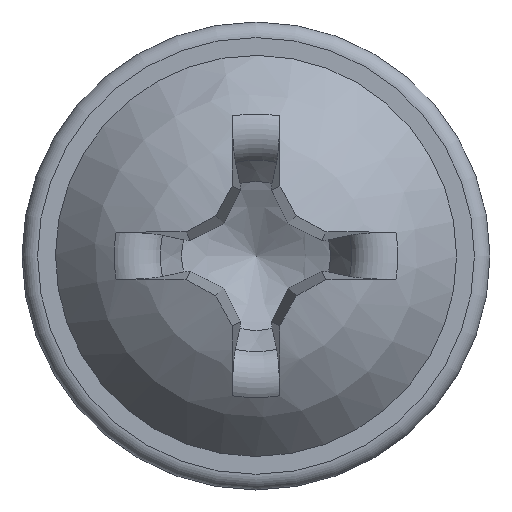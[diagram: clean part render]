
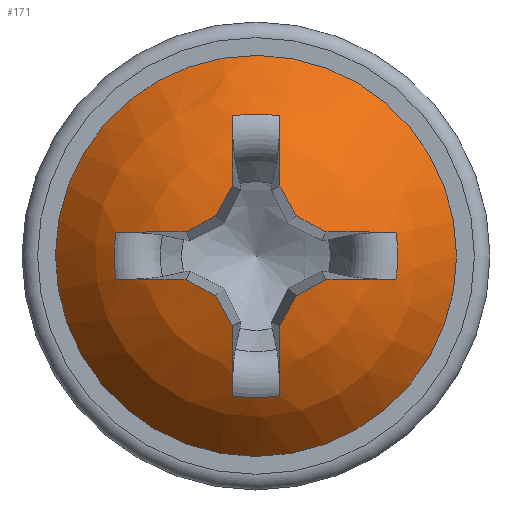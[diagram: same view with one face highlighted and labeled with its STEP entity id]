
A CAD part, top view. The second image highlights one B-rep face of the part: STEP entity #171.
In plain terms, the highlighted spherical face has radius 6.248 mm.
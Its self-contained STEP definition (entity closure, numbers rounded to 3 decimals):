
#132=SPHERICAL_SURFACE('',#988,6.248);
#143=FACE_BOUND('',#281,.T.);
#144=FACE_BOUND('',#282,.T.);
#171=ADVANCED_FACE('',(#143,#144),#132,.T.);
#281=EDGE_LOOP('',(#408));
#282=EDGE_LOOP('',(#409,#410,#411,#412,#413,#414,#415,#416,#417,#418,#419,
#420,#421,#422,#423,#424,#425,#426,#427,#428));
#348=CIRCLE('',#967,5.143);
#349=CIRCLE('',#968,6.248);
#350=CIRCLE('',#969,3.639);
#351=CIRCLE('',#970,6.248);
#352=CIRCLE('',#971,6.199);
#353=CIRCLE('',#972,6.199);
#354=CIRCLE('',#973,6.248);
#355=CIRCLE('',#974,3.639);
#356=CIRCLE('',#975,6.248);
#357=CIRCLE('',#976,6.199);
#358=CIRCLE('',#977,6.199);
#359=CIRCLE('',#978,6.248);
#360=CIRCLE('',#979,3.639);
#361=CIRCLE('',#980,6.248);
#362=CIRCLE('',#981,6.199);
#363=CIRCLE('',#982,6.199);
#364=CIRCLE('',#983,6.248);
#365=CIRCLE('',#984,3.639);
#366=CIRCLE('',#985,6.248);
#367=CIRCLE('',#986,6.199);
#368=CIRCLE('',#987,6.199);
#408=ORIENTED_EDGE('',*,*,#774,.T.);
#409=ORIENTED_EDGE('',*,*,#775,.F.);
#410=ORIENTED_EDGE('',*,*,#776,.T.);
#411=ORIENTED_EDGE('',*,*,#777,.F.);
#412=ORIENTED_EDGE('',*,*,#778,.F.);
#413=ORIENTED_EDGE('',*,*,#779,.F.);
#414=ORIENTED_EDGE('',*,*,#780,.F.);
#415=ORIENTED_EDGE('',*,*,#781,.T.);
#416=ORIENTED_EDGE('',*,*,#782,.F.);
#417=ORIENTED_EDGE('',*,*,#783,.F.);
#418=ORIENTED_EDGE('',*,*,#784,.F.);
#419=ORIENTED_EDGE('',*,*,#785,.F.);
#420=ORIENTED_EDGE('',*,*,#786,.T.);
#421=ORIENTED_EDGE('',*,*,#787,.F.);
#422=ORIENTED_EDGE('',*,*,#788,.F.);
#423=ORIENTED_EDGE('',*,*,#789,.F.);
#424=ORIENTED_EDGE('',*,*,#790,.F.);
#425=ORIENTED_EDGE('',*,*,#791,.T.);
#426=ORIENTED_EDGE('',*,*,#792,.F.);
#427=ORIENTED_EDGE('',*,*,#793,.F.);
#428=ORIENTED_EDGE('',*,*,#794,.F.);
#680=VERTEX_POINT('',#1908);
#681=VERTEX_POINT('',#1910);
#682=VERTEX_POINT('',#1911);
#683=VERTEX_POINT('',#1913);
#684=VERTEX_POINT('',#1915);
#685=VERTEX_POINT('',#1917);
#686=VERTEX_POINT('',#1919);
#687=VERTEX_POINT('',#1921);
#688=VERTEX_POINT('',#1923);
#689=VERTEX_POINT('',#1925);
#690=VERTEX_POINT('',#1927);
#691=VERTEX_POINT('',#1929);
#692=VERTEX_POINT('',#1931);
#693=VERTEX_POINT('',#1933);
#694=VERTEX_POINT('',#1935);
#695=VERTEX_POINT('',#1937);
#696=VERTEX_POINT('',#1939);
#697=VERTEX_POINT('',#1941);
#698=VERTEX_POINT('',#1943);
#699=VERTEX_POINT('',#1945);
#700=VERTEX_POINT('',#1947);
#774=EDGE_CURVE('',#680,#680,#348,.T.);
#775=EDGE_CURVE('',#681,#682,#349,.T.);
#776=EDGE_CURVE('',#681,#683,#350,.T.);
#777=EDGE_CURVE('',#684,#683,#351,.T.);
#778=EDGE_CURVE('',#685,#684,#352,.T.);
#779=EDGE_CURVE('',#686,#685,#353,.T.);
#780=EDGE_CURVE('',#687,#686,#354,.T.);
#781=EDGE_CURVE('',#687,#688,#355,.T.);
#782=EDGE_CURVE('',#689,#688,#356,.T.);
#783=EDGE_CURVE('',#690,#689,#357,.T.);
#784=EDGE_CURVE('',#691,#690,#358,.T.);
#785=EDGE_CURVE('',#692,#691,#359,.T.);
#786=EDGE_CURVE('',#692,#693,#360,.T.);
#787=EDGE_CURVE('',#694,#693,#361,.T.);
#788=EDGE_CURVE('',#695,#694,#362,.T.);
#789=EDGE_CURVE('',#696,#695,#363,.T.);
#790=EDGE_CURVE('',#697,#696,#364,.T.);
#791=EDGE_CURVE('',#697,#698,#365,.T.);
#792=EDGE_CURVE('',#699,#698,#366,.T.);
#793=EDGE_CURVE('',#700,#699,#367,.T.);
#794=EDGE_CURVE('',#682,#700,#368,.T.);
#967=AXIS2_PLACEMENT_3D('',#1907,#1054,#1055);
#968=AXIS2_PLACEMENT_3D('',#1909,#1056,#1057);
#969=AXIS2_PLACEMENT_3D('',#1912,#1058,#1059);
#970=AXIS2_PLACEMENT_3D('',#1914,#1060,#1061);
#971=AXIS2_PLACEMENT_3D('',#1916,#1062,#1063);
#972=AXIS2_PLACEMENT_3D('',#1918,#1064,#1065);
#973=AXIS2_PLACEMENT_3D('',#1920,#1066,#1067);
#974=AXIS2_PLACEMENT_3D('',#1922,#1068,#1069);
#975=AXIS2_PLACEMENT_3D('',#1924,#1070,#1071);
#976=AXIS2_PLACEMENT_3D('',#1926,#1072,#1073);
#977=AXIS2_PLACEMENT_3D('',#1928,#1074,#1075);
#978=AXIS2_PLACEMENT_3D('',#1930,#1076,#1077);
#979=AXIS2_PLACEMENT_3D('',#1932,#1078,#1079);
#980=AXIS2_PLACEMENT_3D('',#1934,#1080,#1081);
#981=AXIS2_PLACEMENT_3D('',#1936,#1082,#1083);
#982=AXIS2_PLACEMENT_3D('',#1938,#1084,#1085);
#983=AXIS2_PLACEMENT_3D('',#1940,#1086,#1087);
#984=AXIS2_PLACEMENT_3D('',#1942,#1088,#1089);
#985=AXIS2_PLACEMENT_3D('',#1944,#1090,#1091);
#986=AXIS2_PLACEMENT_3D('',#1946,#1092,#1093);
#987=AXIS2_PLACEMENT_3D('',#1948,#1094,#1095);
#988=AXIS2_PLACEMENT_3D('',#1949,#1096,#1097);
#1054=DIRECTION('',(0.,0.,1.));
#1055=DIRECTION('',(1.,0.,0.));
#1056=DIRECTION('',(-0.035,0.996,0.087));
#1057=DIRECTION('',(0.,-0.087,0.996));
#1058=DIRECTION('',(0.,0.,-1.));
#1059=DIRECTION('',(-1.,0.,0.));
#1060=DIRECTION('',(-0.035,-0.996,0.087));
#1061=DIRECTION('',(0.,-0.087,-0.996));
#1062=DIRECTION('',(0.467,-0.879,0.1));
#1063=DIRECTION('',(0.883,0.469,0.));
#1064=DIRECTION('',(0.879,-0.467,0.1));
#1065=DIRECTION('',(0.469,0.883,0.));
#1066=DIRECTION('',(0.996,0.035,0.087));
#1067=DIRECTION('',(0.087,0.,-0.996));
#1068=DIRECTION('',(0.,0.,-1.));
#1069=DIRECTION('',(-1.,0.,0.));
#1070=DIRECTION('',(-0.996,0.035,0.087));
#1071=DIRECTION('',(0.087,0.,0.996));
#1072=DIRECTION('',(-0.879,-0.467,0.1));
#1073=DIRECTION('',(0.469,-0.883,0.));
#1074=DIRECTION('',(-0.467,-0.879,0.1));
#1075=DIRECTION('',(0.883,-0.469,0.));
#1076=DIRECTION('',(0.035,-0.996,0.087));
#1077=DIRECTION('',(0.,-0.087,-0.996));
#1078=DIRECTION('',(0.,0.,-1.));
#1079=DIRECTION('',(-1.,0.,0.));
#1080=DIRECTION('',(0.035,0.996,0.087));
#1081=DIRECTION('',(0.,-0.087,0.996));
#1082=DIRECTION('',(-0.467,0.879,0.1));
#1083=DIRECTION('',(-0.883,-0.469,0.));
#1084=DIRECTION('',(-0.879,0.467,0.1));
#1085=DIRECTION('',(-0.469,-0.883,0.));
#1086=DIRECTION('',(-0.996,-0.035,0.087));
#1087=DIRECTION('',(0.087,0.,0.996));
#1088=DIRECTION('',(0.,0.,-1.));
#1089=DIRECTION('',(-1.,0.,0.));
#1090=DIRECTION('',(0.996,-0.035,0.087));
#1091=DIRECTION('',(0.087,0.,-0.996));
#1092=DIRECTION('',(0.879,0.467,0.1));
#1093=DIRECTION('',(-0.469,0.883,0.));
#1094=DIRECTION('',(0.467,0.879,0.1));
#1095=DIRECTION('',(-0.883,0.469,0.));
#1096=DIRECTION('',(0.,0.,1.));
#1097=DIRECTION('',(0.,1.,0.));
#1907=CARTESIAN_POINT('',(0.,0.,1.3));
#1908=CARTESIAN_POINT('',(5.143,0.,1.3));
#1909=CARTESIAN_POINT('',(0.001,-0.028,-2.25));
#1910=CARTESIAN_POINT('',(-3.59,-0.598,2.831));
#1911=CARTESIAN_POINT('',(-1.792,-0.612,3.706));
#1912=CARTESIAN_POINT('',(0.,0.,2.831));
#1913=CARTESIAN_POINT('',(-3.59,0.598,2.831));
#1914=CARTESIAN_POINT('',(0.001,0.028,-2.25));
#1915=CARTESIAN_POINT('',(-1.792,0.612,3.706));
#1916=CARTESIAN_POINT('',(-0.363,0.684,-2.326));
#1917=CARTESIAN_POINT('',(-1.031,1.031,3.828));
#1918=CARTESIAN_POINT('',(-0.684,0.363,-2.326));
#1919=CARTESIAN_POINT('',(-0.612,1.792,3.706));
#1920=CARTESIAN_POINT('',(-0.028,-0.001,-2.25));
#1921=CARTESIAN_POINT('',(-0.598,3.59,2.831));
#1922=CARTESIAN_POINT('',(0.,0.,2.831));
#1923=CARTESIAN_POINT('',(0.598,3.59,2.831));
#1924=CARTESIAN_POINT('',(0.028,-0.001,-2.25));
#1925=CARTESIAN_POINT('',(0.612,1.792,3.706));
#1926=CARTESIAN_POINT('',(0.684,0.363,-2.326));
#1927=CARTESIAN_POINT('',(1.031,1.031,3.828));
#1928=CARTESIAN_POINT('',(0.363,0.684,-2.326));
#1929=CARTESIAN_POINT('',(1.792,0.612,3.706));
#1930=CARTESIAN_POINT('',(-0.001,0.028,-2.25));
#1931=CARTESIAN_POINT('',(3.59,0.598,2.831));
#1932=CARTESIAN_POINT('',(0.,0.,2.831));
#1933=CARTESIAN_POINT('',(3.59,-0.598,2.831));
#1934=CARTESIAN_POINT('',(-0.001,-0.028,-2.25));
#1935=CARTESIAN_POINT('',(1.792,-0.612,3.706));
#1936=CARTESIAN_POINT('',(0.363,-0.684,-2.326));
#1937=CARTESIAN_POINT('',(1.031,-1.031,3.828));
#1938=CARTESIAN_POINT('',(0.684,-0.363,-2.326));
#1939=CARTESIAN_POINT('',(0.612,-1.792,3.706));
#1940=CARTESIAN_POINT('',(0.028,0.001,-2.25));
#1941=CARTESIAN_POINT('',(0.598,-3.59,2.831));
#1942=CARTESIAN_POINT('',(0.,0.,2.831));
#1943=CARTESIAN_POINT('',(-0.598,-3.59,2.831));
#1944=CARTESIAN_POINT('',(-0.028,0.001,-2.25));
#1945=CARTESIAN_POINT('',(-0.612,-1.792,3.706));
#1946=CARTESIAN_POINT('',(-0.684,-0.363,-2.326));
#1947=CARTESIAN_POINT('',(-1.031,-1.031,3.828));
#1948=CARTESIAN_POINT('',(-0.363,-0.684,-2.326));
#1949=CARTESIAN_POINT('',(0.,0.,-2.248));
